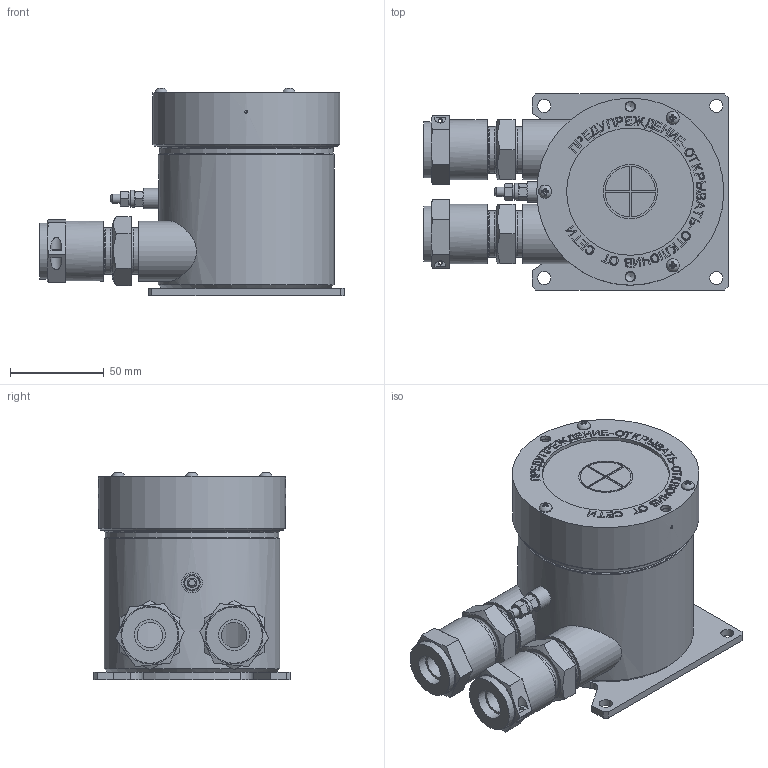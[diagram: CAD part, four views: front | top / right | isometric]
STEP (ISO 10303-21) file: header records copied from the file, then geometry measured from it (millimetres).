
FILE_DESCRIPTION(('STEP AP242'), '1');
FILE_NAME('908.3065.00.000 俜謷飶樥罻', '', ('UNSPECIFIED'), ('UNSPECIFIED'), 'ASCON STEP Converter 1.6', 'ASCON Math Kernel', '');
FILE_SCHEMA(('AP242_MANAGED_MODEL_BASED_3D_ENGINEERING_MIM_LF { 1 0 10303 442 1 1 4 }'));
Length unit declared in the file: millimetre
Bounding box: 163 x 105 x 111.15 mm (x, y, z)
Volume: 491395.4 mm3; surface area: 125667.6 mm2
Topology: 5 solids, 7 shells, 1504 faces, 4129 edges, 2736 vertices
Faces by surface type: cylinder 760, plane 675, cone 49, torus 16, sphere 3, revolution 1
Full cylindrical faces by diameter (mm): 1.5 x2, 2 x2, 3.242 x1, 4.134 x1, 5 x7, 5.3 x2, 5.5 x2, 6.5 x1, 7 x7, 9 x3, 11 x1, 13.6 x2, 14 x2, 16.5 x4, 24.5 x2, 24.8 x4, 25.376 x2, 27 x2, 29 x1, 30 x2, 32 x4, 32.5 x2, 68 x1, 84 x1, 87 x1, 92.8 x1, 94 x1, 95 x1, 100 x1
Entity records: 62924 total; most frequent: CARTESIAN_POINT 11595, DIRECTION 8579, ORIENTED_EDGE 7976, EDGE_CURVE 3988, AXIS2_PLACEMENT_3D 3185, VERTEX_POINT 2728, LINE 2208, VECTOR 2208
